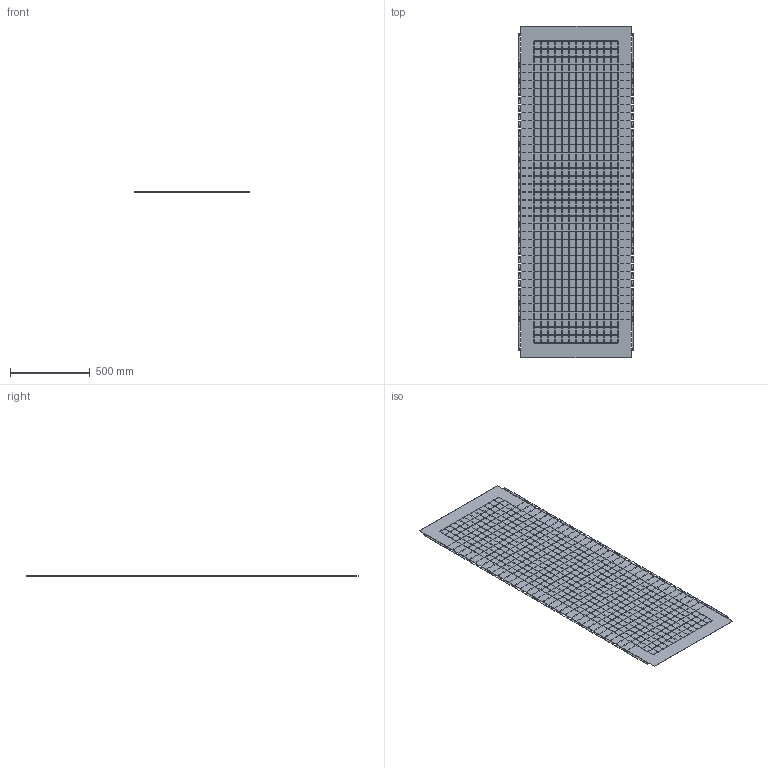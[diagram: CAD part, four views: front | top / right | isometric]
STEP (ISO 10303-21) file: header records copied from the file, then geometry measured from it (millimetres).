
FILE_DESCRIPTION (( 'STEP AP203' ), '1' );
FILE_NAME ('MA1.800.060822.03.01 Ïàíåëü âåðòèêàëüíàÿ äëÿ ñåêöèîíèðîâàíèÿ Ã800 Â2200 ìì EKF.STEP', '2024-12-02T14:05:02', ( '' ), ( '' ), 'SwSTEP 2.0', 'SolidWorks 2021', '' );
FILE_SCHEMA (( 'CONFIG_CONTROL_DESIGN' ));
Length unit declared in the file: millimetre
Products named in the file (1): MA1.800.060822.03.01 Ïàíåëü âåðòèêàëüíàÿ äëÿ ñåêöèîíèðîâàíèÿ Ã800 Â2200 ìì EKF
Bounding box: 726.6 x 2088 x 1 mm (x, y, z)
Volume: 1412114.8 mm3; surface area: 2928855.7 mm2
Topology: 1 solids, 1 shells, 5278 faces, 15828 edges, 10552 vertices
Faces by surface type: plane 5134, cylinder 144
Entity records: 179497 total; most frequent: CARTESIAN_POINT 31659, ORIENTED_EDGE 31656, DIRECTION 26674, EDGE_CURVE 15828, VECTOR 15540, LINE 15540, VERTEX_POINT 10552, EDGE_LOOP 7778
